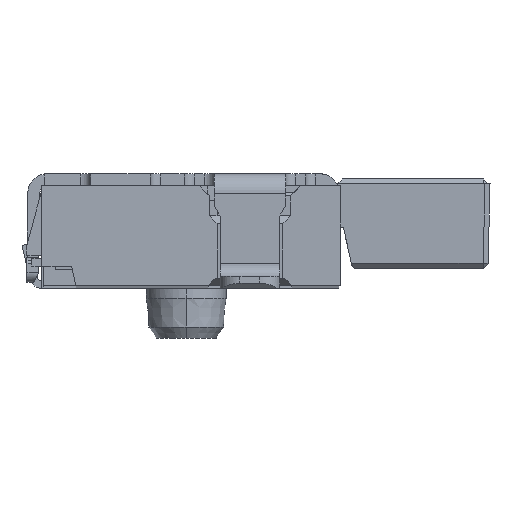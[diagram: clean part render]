
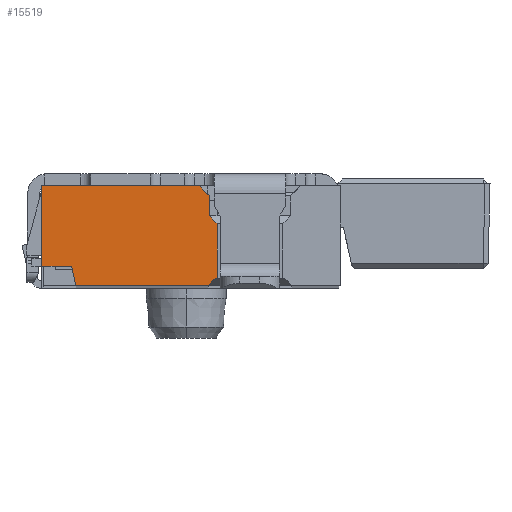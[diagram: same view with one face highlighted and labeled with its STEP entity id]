
A CAD part, left-side view. The second image highlights one B-rep face of the part: STEP entity #15519.
In plain terms, the highlighted planar face has unit normal (-1, 0, 0).
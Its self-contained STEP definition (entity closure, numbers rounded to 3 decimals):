
#1003 = VERTEX_POINT ( 'NONE', #23189 ) ;
#1013 = VERTEX_POINT ( 'NONE', #23178 ) ;
#1015 = VERTEX_POINT ( 'NONE', #23176 ) ;
#1023 = VERTEX_POINT ( 'NONE', #23168 ) ;
#1049 = VERTEX_POINT ( 'NONE', #23140 ) ;
#1050 = VERTEX_POINT ( 'NONE', #23138 ) ;
#1052 = VERTEX_POINT ( 'NONE', #23136 ) ;
#1053 = VERTEX_POINT ( 'NONE', #23135 ) ;
#1054 = VERTEX_POINT ( 'NONE', #23134 ) ;
#1578 = VERTEX_POINT ( 'NONE', #22617 ) ;
#1603 = VERTEX_POINT ( 'NONE', #22589 ) ;
#7567 = LINE ( 'NONE', #8663, #7586 ) ;
#7586 = VECTOR ( 'NONE', #8686, 1000. ) ;
#7689 = LINE ( 'NONE', #8940, #7690 ) ;
#7690 = VECTOR ( 'NONE', #8942, 1000. ) ;
#7770 = LINE ( 'NONE', #9127, #7771 ) ;
#7771 = VECTOR ( 'NONE', #9129, 1000. ) ;
#7924 = LINE ( 'NONE', #9503, #7925 ) ;
#7925 = VECTOR ( 'NONE', #9505, 1000. ) ;
#8036 = LINE ( 'NONE', #9751, #8051 ) ;
#8051 = VECTOR ( 'NONE', #9760, 1000. ) ;
#8066 = VECTOR ( 'NONE', #9792, 1000. ) ;
#8068 = LINE ( 'NONE', #9791, #8066 ) ;
#8140 = LINE ( 'NONE', #9858, #8141 ) ;
#8141 = VECTOR ( 'NONE', #9859, 1000. ) ;
#8155 = LINE ( 'NONE', #9884, #8178 ) ;
#8176 = LINE ( 'NONE', #9894, #8177 ) ;
#8177 = VECTOR ( 'NONE', #9895, 1000. ) ;
#8178 = VECTOR ( 'NONE', #9897, 1000. ) ;
#8180 = LINE ( 'NONE', #9898, #8181 ) ;
#8181 = VECTOR ( 'NONE', #9899, 1000. ) ;
#8237 = LINE ( 'NONE', #9962, #8238 ) ;
#8238 = VECTOR ( 'NONE', #9963, 1000. ) ;
#8663 = CARTESIAN_POINT ( 'NONE',  ( -4.525, -0.24, 0.1 ) ) ;
#8686 = DIRECTION ( 'NONE',  ( 0., 0.707, -0.707 ) ) ;
#8940 = CARTESIAN_POINT ( 'NONE',  ( -4.525, -0.26, 0.03 ) ) ;
#8942 = DIRECTION ( 'NONE',  ( 0., 0., -1. ) ) ;
#9127 = CARTESIAN_POINT ( 'NONE',  ( -4.525, -0.08, 1.03 ) ) ;
#9129 = DIRECTION ( 'NONE',  ( 0., -0.707, -0.707 ) ) ;
#9290 = ORIENTED_EDGE ( 'NONE', *, *, #26927, .T. ) ;
#9292 = ORIENTED_EDGE ( 'NONE', *, *, #26670, .F. ) ;
#9309 = ORIENTED_EDGE ( 'NONE', *, *, #26957, .F. ) ;
#9311 = ORIENTED_EDGE ( 'NONE', *, *, #26925, .T. ) ;
#9312 = ORIENTED_EDGE ( 'NONE', *, *, #26926, .T. ) ;
#9315 = ORIENTED_EDGE ( 'NONE', *, *, #26875, .F. ) ;
#9317 = ORIENTED_EDGE ( 'NONE', *, *, #26792, .F. ) ;
#9318 = ORIENTED_EDGE ( 'NONE', *, *, #26711, .F. ) ;
#9324 = ORIENTED_EDGE ( 'NONE', *, *, #26860, .F. ) ;
#9326 = ORIENTED_EDGE ( 'NONE', *, *, #26907, .F. ) ;
#9327 = ORIENTED_EDGE ( 'NONE', *, *, #26614, .F. ) ;
#9503 = CARTESIAN_POINT ( 'NONE',  ( -4.525, -0.18, 0.03 ) ) ;
#9505 = DIRECTION ( 'NONE',  ( 0., 0., -1. ) ) ;
#9751 = CARTESIAN_POINT ( 'NONE',  ( -4.525, 1.157, 0.03 ) ) ;
#9760 = DIRECTION ( 'NONE',  ( 0., 0.218, 0.976 ) ) ;
#9791 = CARTESIAN_POINT ( 'NONE',  ( -4.525, -0.18, 0.73 ) ) ;
#9792 = DIRECTION ( 'NONE',  ( 0., -0.707, -0.707 ) ) ;
#9858 = CARTESIAN_POINT ( 'NONE',  ( -4.525, -0.26, 0.03 ) ) ;
#9859 = DIRECTION ( 'NONE',  ( 0., 1., 0. ) ) ;
#9884 = CARTESIAN_POINT ( 'NONE',  ( -4.525, 1.2, 0.224 ) ) ;
#9894 = CARTESIAN_POINT ( 'NONE',  ( -4.525, 1.5, 0.224 ) ) ;
#9895 = DIRECTION ( 'NONE',  ( 0., 0., -1. ) ) ;
#9897 = DIRECTION ( 'NONE',  ( 0., -1., 0. ) ) ;
#9898 = CARTESIAN_POINT ( 'NONE',  ( -4.525, -0.94, 0.1 ) ) ;
#9899 = DIRECTION ( 'NONE',  ( 0., -1., 0. ) ) ;
#9962 = CARTESIAN_POINT ( 'NONE',  ( -4.525, -0.26, 1.03 ) ) ;
#9963 = DIRECTION ( 'NONE',  ( 0., -1., 0. ) ) ;
#10173 = FACE_OUTER_BOUND ( 'NONE', #21766, .T. ) ;
#14215 = AXIS2_PLACEMENT_3D ( 'NONE', #24257, #24234, #24233 ) ;
#15519 = ADVANCED_FACE ( 'NONE', ( #10173 ), #24248, .F. ) ;
#21766 = EDGE_LOOP ( 'NONE', ( #9315, #9317, #9318, #9309, #9311, #9312, #9324, #9326, #9327, #9290, #9292 ) ) ;
#22589 = CARTESIAN_POINT ( 'NONE',  ( -4.525, 1.5, 1.03 ) ) ;
#22617 = CARTESIAN_POINT ( 'NONE',  ( -4.525, 1.5, 0.224 ) ) ;
#23134 = CARTESIAN_POINT ( 'NONE',  ( -4.525, 1.157, 0.03 ) ) ;
#23135 = CARTESIAN_POINT ( 'NONE',  ( -4.525, -0.26, 0.65 ) ) ;
#23136 = CARTESIAN_POINT ( 'NONE',  ( -4.525, -0.17, 0.03 ) ) ;
#23138 = CARTESIAN_POINT ( 'NONE',  ( -4.525, -0.18, 0.73 ) ) ;
#23140 = CARTESIAN_POINT ( 'NONE',  ( -4.525, 1.2, 0.224 ) ) ;
#23168 = CARTESIAN_POINT ( 'NONE',  ( -4.525, -0.18, 0.93 ) ) ;
#23176 = CARTESIAN_POINT ( 'NONE',  ( -4.525, -0.08, 1.03 ) ) ;
#23178 = CARTESIAN_POINT ( 'NONE',  ( -4.525, -0.26, 0.1 ) ) ;
#23189 = CARTESIAN_POINT ( 'NONE',  ( -4.525, -0.24, 0.1 ) ) ;
#24233 = DIRECTION ( 'NONE',  ( 0., 0., -1. ) ) ;
#24234 = DIRECTION ( 'NONE',  ( 1., 0., 0. ) ) ;
#24248 = PLANE ( 'NONE',  #14215 ) ;
#24257 = CARTESIAN_POINT ( 'NONE',  ( -4.525, -0.26, 0.03 ) ) ;
#26614 = EDGE_CURVE ( 'NONE', #1003, #1052, #7567, .T. ) ;
#26670 = EDGE_CURVE ( 'NONE', #1053, #1013, #7689, .T. ) ;
#26711 = EDGE_CURVE ( 'NONE', #1015, #1023, #7770, .T. ) ;
#26792 = EDGE_CURVE ( 'NONE', #1023, #1050, #7924, .T. ) ;
#26860 = EDGE_CURVE ( 'NONE', #1054, #1049, #8036, .T. ) ;
#26875 = EDGE_CURVE ( 'NONE', #1050, #1053, #8068, .T. ) ;
#26907 = EDGE_CURVE ( 'NONE', #1052, #1054, #8140, .T. ) ;
#26925 = EDGE_CURVE ( 'NONE', #1603, #1578, #8176, .T. ) ;
#26926 = EDGE_CURVE ( 'NONE', #1578, #1049, #8155, .T. ) ;
#26927 = EDGE_CURVE ( 'NONE', #1003, #1013, #8180, .T. ) ;
#26957 = EDGE_CURVE ( 'NONE', #1603, #1015, #8237, .T. ) ;
